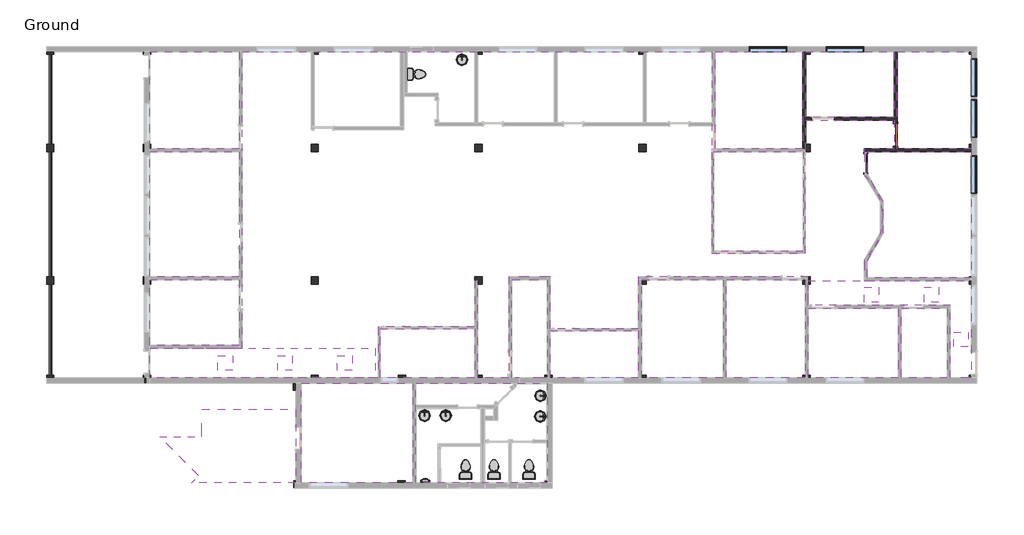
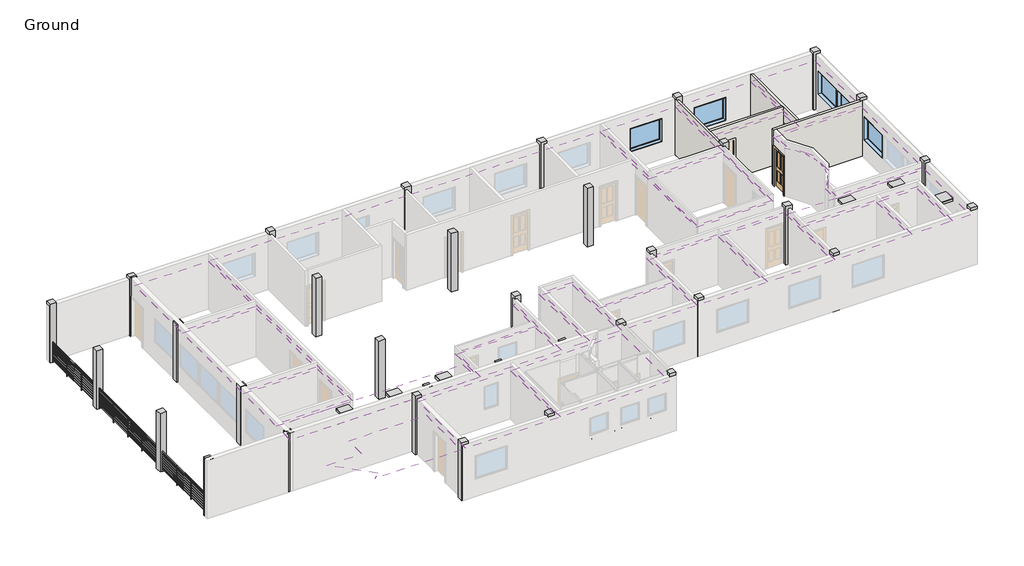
# One storey, part 4 of 4: 34 columns, 21 coverings, 10 flow terminals, 6 light fixtures, 5 windows, 4 walls, 3 railings, 2 doors.
"""IFC4 building model written with IfcOpenShell, lengths in millimetres."""

from ifc_helpers import new_model, si_unit, point, frame, frame_2d, origin, place, context, project, spatial, polyline, circle_curve, trimmed, segment, composite_curve, outline, extrude, faceted_brep, transform, mapped, element, save
from components import concrete_square_column_12_x_12_d780e21f, door_43f271b1, door_bfc1a142, m_toilet_domestic_3d_m_toilet_domestic_3d_5cb52bd4, m_toilet_domestic_3d_m_toilet_domestic_3d_183bbd19, flow_terminal_5184717d, urinal_wall_3d_urinal_wall_3d_aeedfa41, m_troffer_lens_0600_x_0600mm_2_lamp_a75f89fe, guardrail_pipe_4b02b070, guardrail_pipe_bb2e5a77, guardrail_pipe_0a43caf4, window_a0bf6c86

model = new_model("IFC4")

# Units and contexts
model_context = context("Model", 3, world=origin())
ifc_project = project(units=[si_unit("LENGTHUNIT", "METRE", prefix="MILLI")], contexts=[model_context])

# Site, building, storey
site = spatial("IfcSite", under=ifc_project)
building = spatial("IfcBuilding", under=site)
storey = spatial("IfcBuildingStorey", under=building, Name="Ground", Elevation=0.0)

# Columns
placement = place(None, origin())
concrete_square_column_12_x_12_shape = concrete_square_column_12_x_12_d780e21f(model_context)
element("IfcColumn", 1, ObjectType="Concrete-Square-Column : 12 x 12", at=placement, inside=storey, context=model_context, shape_type="MappedRepresentation", body=[
    mapped(concrete_square_column_12_x_12_shape, transform((-39928.402824, 22361.49779, 0.0), x_axis=(1.0, 0.0, 0.0), y_axis=(0.0, 1.0, 0.0), z_axis=(0.0, 0.0, 1.0))),
])
element("IfcColumn", 2, ObjectType="Concrete-Square-Column : 12 x 12", at=placement, inside=storey, context=model_context, shape_type="MappedRepresentation", body=[
    mapped(concrete_square_column_12_x_12_shape, transform((-33070.402824, 22361.49779, 0.0), x_axis=(1.0, 0.0, 0.0), y_axis=(0.0, 1.0, 0.0), z_axis=(0.0, 0.0, 1.0))),
])
element("IfcColumn", 3, ObjectType="Concrete-Square-Column : 12 x 12", at=placement, inside=storey, context=model_context, shape_type="MappedRepresentation", body=[
    mapped(concrete_square_column_12_x_12_shape, transform((-26364.802824, 22361.49779, 0.0), x_axis=(1.0, 0.0, 0.0), y_axis=(0.0, 1.0, 0.0), z_axis=(0.0, 0.0, 1.0))),
])
element("IfcColumn", 4, ObjectType="Concrete-Square-Column : 12 x 12", at=placement, inside=storey, context=model_context, shape_type="MappedRepresentation", body=[
    mapped(concrete_square_column_12_x_12_shape, transform((-19659.202824, 22361.49779, 0.0), x_axis=(1.0, 0.0, 0.0), y_axis=(0.0, 1.0, 0.0), z_axis=(0.0, 0.0, 1.0))),
])
element("IfcColumn", 5, ObjectType="Concrete-Square-Column : 12 x 12", at=placement, inside=storey, context=model_context, shape_type="MappedRepresentation", body=[
    mapped(concrete_square_column_12_x_12_shape, transform((-12953.602824, 22361.49779, 0.0), x_axis=(1.0, 0.0, 0.0), y_axis=(0.0, 1.0, 0.0), z_axis=(0.0, 0.0, 1.0))),
])
element("IfcColumn", 6, ObjectType="Concrete-Square-Column : 12 x 12", at=placement, inside=storey, context=model_context, shape_type="MappedRepresentation", body=[
    mapped(concrete_square_column_12_x_12_shape, transform((-6151.165324, 22361.49779, 0.0), x_axis=(1.0, 0.0, 0.0), y_axis=(0.0, 1.0, 0.0), z_axis=(0.0, 0.0, 1.0))),
])
element("IfcColumn", 7, ObjectType="Concrete-Square-Column : 12 x 12", at=placement, inside=storey, context=model_context, shape_type="MappedRepresentation", body=[
    mapped(concrete_square_column_12_x_12_shape, transform((-39928.402824, 18378.46029, 0.0), x_axis=(1.0, 0.0, 0.0), y_axis=(0.0, 1.0, 0.0), z_axis=(0.0, 0.0, 1.0))),
])
element("IfcColumn", 8, ObjectType="Concrete-Square-Column : 12 x 12", at=placement, inside=storey, context=model_context, shape_type="MappedRepresentation", body=[
    mapped(concrete_square_column_12_x_12_shape, transform((-39928.402824, 12965.08529, 0.0), x_axis=(1.0, 0.0, 0.0), y_axis=(0.0, 1.0, 0.0), z_axis=(0.0, 0.0, 1.0))),
])
element("IfcColumn", 9, ObjectType="Concrete-Square-Column : 12 x 12", at=placement, inside=storey, context=model_context, shape_type="MappedRepresentation", body=[
    mapped(concrete_square_column_12_x_12_shape, transform((-39928.402824, 8918.54779, 0.0), x_axis=(1.0, 0.0, 0.0), y_axis=(0.0, 1.0, 0.0), z_axis=(0.0, 0.0, 1.0))),
])
element("IfcColumn", 10, ObjectType="Concrete-Square-Column : 12 x 12", at=placement, inside=storey, context=model_context, shape_type="MappedRepresentation", body=[
    mapped(concrete_square_column_12_x_12_shape, transform((-33070.402824, 8918.54779, 0.0), x_axis=(1.0, 0.0, 0.0), y_axis=(0.0, 1.0, 0.0), z_axis=(0.0, 0.0, 1.0))),
])
element("IfcColumn", 11, ObjectType="Concrete-Square-Column : 12 x 12", at=placement, inside=storey, context=model_context, shape_type="MappedRepresentation", body=[
    mapped(concrete_square_column_12_x_12_shape, transform((-33070.402824, 12965.08529, 0.0), x_axis=(1.0, 0.0, 0.0), y_axis=(0.0, 1.0, 0.0), z_axis=(0.0, 0.0, 1.0))),
])
element("IfcColumn", 12, ObjectType="Concrete-Square-Column : 12 x 12", at=placement, inside=storey, context=model_context, shape_type="MappedRepresentation", body=[
    mapped(concrete_square_column_12_x_12_shape, transform((-26364.802824, 12965.08529, 0.0), x_axis=(1.0, 0.0, 0.0), y_axis=(0.0, 1.0, 0.0), z_axis=(0.0, 0.0, 1.0))),
])
element("IfcColumn", 13, ObjectType="Concrete-Square-Column : 12 x 12", at=placement, inside=storey, context=model_context, shape_type="MappedRepresentation", body=[
    mapped(concrete_square_column_12_x_12_shape, transform((-26364.802824, 8918.54779, 0.0), x_axis=(1.0, 0.0, 0.0), y_axis=(0.0, 1.0, 0.0), z_axis=(0.0, 0.0, 1.0))),
])
element("IfcColumn", 14, ObjectType="Concrete-Square-Column : 12 x 12", at=placement, inside=storey, context=model_context, shape_type="MappedRepresentation", body=[
    mapped(concrete_square_column_12_x_12_shape, transform((-19659.202824, 8918.54779, 0.0), x_axis=(1.0, 0.0, 0.0), y_axis=(0.0, 1.0, 0.0), z_axis=(0.0, 0.0, 1.0))),
])
element("IfcColumn", 15, ObjectType="Concrete-Square-Column : 12 x 12", at=placement, inside=storey, context=model_context, shape_type="MappedRepresentation", body=[
    mapped(concrete_square_column_12_x_12_shape, transform((-19659.202824, 12965.08529, 0.0), x_axis=(1.0, 0.0, 0.0), y_axis=(0.0, 1.0, 0.0), z_axis=(0.0, 0.0, 1.0))),
])
element("IfcColumn", 16, ObjectType="Concrete-Square-Column : 12 x 12", at=placement, inside=storey, context=model_context, shape_type="MappedRepresentation", body=[
    mapped(concrete_square_column_12_x_12_shape, transform((-12953.602824, 12965.08529, 0.0), x_axis=(1.0, 0.0, 0.0), y_axis=(0.0, 1.0, 0.0), z_axis=(0.0, 0.0, 1.0))),
])
element("IfcColumn", 17, ObjectType="Concrete-Square-Column : 12 x 12", at=placement, inside=storey, context=model_context, shape_type="MappedRepresentation", body=[
    mapped(concrete_square_column_12_x_12_shape, transform((-12953.602824, 8918.54779, 0.0), x_axis=(1.0, 0.0, 0.0), y_axis=(0.0, 1.0, 0.0), z_axis=(0.0, 0.0, 1.0))),
])
element("IfcColumn", 18, ObjectType="Concrete-Square-Column : 12 x 12", at=placement, inside=storey, context=model_context, shape_type="MappedRepresentation", body=[
    mapped(concrete_square_column_12_x_12_shape, transform((-6151.165324, 8918.54779, 0.0), x_axis=(1.0, 0.0, 0.0), y_axis=(0.0, 1.0, 0.0), z_axis=(0.0, 0.0, 1.0))),
])
element("IfcColumn", 19, ObjectType="Concrete-Square-Column : 12 x 12", at=placement, inside=storey, context=model_context, shape_type="MappedRepresentation", body=[
    mapped(concrete_square_column_12_x_12_shape, transform((-6151.165324, 12965.08529, 0.0), x_axis=(1.0, 0.0, 0.0), y_axis=(0.0, 1.0, 0.0), z_axis=(0.0, 0.0, 1.0))),
])
element("IfcColumn", 20, ObjectType="Concrete-Square-Column : 12 x 12", at=placement, inside=storey, context=model_context, shape_type="MappedRepresentation", body=[
    mapped(concrete_square_column_12_x_12_shape, transform((-6151.165324, 18378.46029, 0.0), x_axis=(1.0, 0.0, 0.0), y_axis=(0.0, 1.0, 0.0), z_axis=(0.0, 0.0, 1.0))),
])
element("IfcColumn", 21, ObjectType="Concrete-Square-Column : 12 x 12", at=placement, inside=storey, context=model_context, shape_type="MappedRepresentation", body=[
    mapped(concrete_square_column_12_x_12_shape, transform((-12953.602824, 18378.46029, 0.0), x_axis=(1.0, 0.0, 0.0), y_axis=(0.0, 1.0, 0.0), z_axis=(0.0, 0.0, 1.0))),
])
element("IfcColumn", 22, ObjectType="Concrete-Square-Column : 12 x 12", at=placement, inside=storey, context=model_context, shape_type="MappedRepresentation", body=[
    mapped(concrete_square_column_12_x_12_shape, transform((-19659.202824, 18378.46029, 0.0), x_axis=(1.0, 0.0, 0.0), y_axis=(0.0, 1.0, 0.0), z_axis=(0.0, 0.0, 1.0))),
])
element("IfcColumn", 23, ObjectType="Concrete-Square-Column : 12 x 12", at=placement, inside=storey, context=model_context, shape_type="MappedRepresentation", body=[
    mapped(concrete_square_column_12_x_12_shape, transform((-26364.802824, 18378.46029, 0.0), x_axis=(1.0, 0.0, 0.0), y_axis=(0.0, 1.0, 0.0), z_axis=(0.0, 0.0, 1.0))),
])
element("IfcColumn", 24, ObjectType="Concrete-Square-Column : 12 x 12", at=placement, inside=storey, context=model_context, shape_type="MappedRepresentation", body=[
    mapped(concrete_square_column_12_x_12_shape, transform((-33070.402824, 18378.46029, 0.0), x_axis=(1.0, 0.0, 0.0), y_axis=(0.0, 1.0, 0.0), z_axis=(0.0, 0.0, 1.0))),
])
element("IfcColumn", 25, ObjectType="Concrete-Square-Column : 12 x 12", at=placement, inside=storey, context=model_context, shape_type="MappedRepresentation", body=[
    mapped(concrete_square_column_12_x_12_shape, transform((-43890.802824, 8918.54779, 0.0), x_axis=(1.0, 0.0, 0.0), y_axis=(0.0, 1.0, 0.0), z_axis=(0.0, 0.0, 1.0))),
])
element("IfcColumn", 26, ObjectType="Concrete-Square-Column : 12 x 12", at=placement, inside=storey, context=model_context, shape_type="MappedRepresentation", body=[
    mapped(concrete_square_column_12_x_12_shape, transform((-43890.802824, 12965.08529, 0.0), x_axis=(1.0, 0.0, 0.0), y_axis=(0.0, 1.0, 0.0), z_axis=(0.0, 0.0, 1.0))),
])
element("IfcColumn", 27, ObjectType="Concrete-Square-Column : 12 x 12", at=placement, inside=storey, context=model_context, shape_type="MappedRepresentation", body=[
    mapped(concrete_square_column_12_x_12_shape, transform((-43890.802824, 18378.46029, 0.0), x_axis=(1.0, 0.0, 0.0), y_axis=(0.0, 1.0, 0.0), z_axis=(0.0, 0.0, 1.0))),
])
element("IfcColumn", 28, ObjectType="Concrete-Square-Column : 12 x 12", at=placement, inside=storey, context=model_context, shape_type="MappedRepresentation", body=[
    mapped(concrete_square_column_12_x_12_shape, transform((-43890.802824, 22361.49779, 0.0), x_axis=(1.0, 0.0, 0.0), y_axis=(0.0, 1.0, 0.0), z_axis=(0.0, 0.0, 1.0))),
])
element("IfcColumn", 29, ObjectType="Concrete-Square-Column : 12 x 12", at=placement, inside=storey, context=model_context, shape_type="MappedRepresentation", body=[
    mapped(concrete_square_column_12_x_12_shape, transform((-23512.065324, 8918.54779, 0.0), x_axis=(1.0, 0.0, 0.0), y_axis=(0.0, 1.0, 0.0), z_axis=(0.0, 0.0, 1.0))),
])
element("IfcColumn", 30, ObjectType="Concrete-Square-Column : 12 x 12", at=placement, inside=storey, context=model_context, shape_type="MappedRepresentation", body=[
    mapped(concrete_square_column_12_x_12_shape, transform((-23512.065324, 4621.18529, 0.0), x_axis=(1.0, 0.0, 0.0), y_axis=(0.0, 1.0, 0.0), z_axis=(0.0, 0.0, 1.0))),
])
element("IfcColumn", 31, ObjectType="Concrete-Square-Column : 12 x 12", at=placement, inside=storey, context=model_context, shape_type="MappedRepresentation", body=[
    mapped(concrete_square_column_12_x_12_shape, transform((-29508.052824, 8918.54779, 0.0), x_axis=(1.0, 0.0, 0.0), y_axis=(0.0, 1.0, 0.0), z_axis=(0.0, 0.0, 1.0))),
])
element("IfcColumn", 32, ObjectType="Concrete-Square-Column : 12 x 12", at=placement, inside=storey, context=model_context, shape_type="MappedRepresentation", body=[
    mapped(concrete_square_column_12_x_12_shape, transform((-33791.127824, 8613.74779, 0.0), x_axis=(1.0, 0.0, 0.0), y_axis=(0.0, 1.0, 0.0), z_axis=(0.0, 0.0, 1.0))),
])
element("IfcColumn", 33, ObjectType="Concrete-Square-Column : 12 x 12", at=placement, inside=storey, context=model_context, shape_type="MappedRepresentation", body=[
    mapped(concrete_square_column_12_x_12_shape, transform((-29516.8878988, 4621.18529, 0.0), x_axis=(1.0, 0.0, 0.0), y_axis=(0.0, 1.0, 0.0), z_axis=(0.0, 0.0, 1.0))),
])
element("IfcColumn", 34, ObjectType="Concrete-Square-Column : 12 x 12", at=placement, inside=storey, context=model_context, shape_type="MappedRepresentation", body=[
    mapped(concrete_square_column_12_x_12_shape, transform((-33784.0878988, 4621.18529, 0.0), x_axis=(1.0, 0.0, 0.0), y_axis=(0.0, 1.0, 0.0), z_axis=(0.0, 0.0, 1.0))),
])

# Coverings
element("IfcCovering", 35, ObjectType="2' x 4' ACT System", at=placement, inside=storey, context=model_context, shape_type="SweptSolid", body=[
    extrude(outline(polyline([(-39818.865324, 18349.88529), (-39818.865324, 22307.52279), (-36166.027824, 22307.52279), (-36166.027824, 18349.88529), (-39818.865324, 18349.88529)])), frame((0.0, 0.0, 2514.6), z_axis=(0.0, 0.0, 1.0), x_axis=(1.0, 0.0, 0.0)), (0.0, 0.0, 1.0), 57.15),
])
element("IfcCovering", 36, ObjectType="2' x 4' ACT System", at=placement, inside=storey, context=model_context, shape_type="SweptSolid", body=[
    extrude(outline(polyline([(-36166.027824, 13117.48529), (-39818.865324, 13117.48529), (-39818.865324, 18226.06029), (-36166.027824, 18226.06029), (-36166.027824, 13117.48529)])), frame((0.0, 0.0, 2514.6), z_axis=(0.0, 0.0, 1.0), x_axis=(1.0, 0.0, 0.0)), (0.0, 0.0, 1.0), 57.15),
])
element("IfcCovering", 37, ObjectType="2' x 4' ACT System", at=placement, inside=storey, context=model_context, shape_type="SweptSolid", body=[
    extrude(outline(polyline([(-36166.027824, 10304.9644567), (-39818.865324, 10304.9644567), (-39818.865324, 12993.66029), (-36166.027824, 12993.66029), (-36166.027824, 10304.9644567)])), frame((0.0, 0.0, 2514.6), z_axis=(0.0, 0.0, 1.0), x_axis=(1.0, 0.0, 0.0)), (0.0, 0.0, 1.0), 57.15),
])
element("IfcCovering", 38, ObjectType="2' x 4' ACT System", at=placement, inside=storey, context=model_context, shape_type="SweptSolid", body=[
    extrude(outline(polyline([(-16688.990324, 22307.52279), (-13106.002824, 22307.52279), (-13106.002824, 18343.53529), (-16688.990324, 18343.53529), (-16688.990324, 22307.52279)])), frame((0.0, 0.0, 2514.6), z_axis=(0.0, 0.0, 1.0), x_axis=(1.0, 0.0, 0.0)), (0.0, 0.0, 1.0), 57.15),
])
element("IfcCovering", 39, ObjectType="2' x 4' ACT System", at=placement, inside=storey, context=model_context, shape_type="SweptSolid", body=[
    extrude(outline(polyline([(-12982.177824, 22307.52279), (-9372.202824, 22307.52279), (-9372.202824, 19632.58529), (-12982.177824, 19632.58529), (-12982.177824, 22307.52279)])), frame((0.0, 0.0, 2514.6), z_axis=(0.0, 0.0, 1.0), x_axis=(1.0, 0.0, 0.0)), (0.0, 0.0, 1.0), 57.15),
])
element("IfcCovering", 40, ObjectType="2' x 4' ACT System", at=placement, inside=storey, context=model_context, shape_type="SweptSolid", body=[
    extrude(outline(polyline([(-9248.377824, 22307.52279), (-6205.140324, 22307.52279), (-6205.140324, 18343.53529), (-9248.377824, 18343.53529), (-9248.377824, 22307.52279)])), frame((0.0, 0.0, 2514.6), z_axis=(0.0, 0.0, 1.0), x_axis=(1.0, 0.0, 0.0)), (0.0, 0.0, 1.0), 57.15),
])
element("IfcCovering", 41, ObjectType="2' x 4' ACT System", at=placement, inside=storey, context=model_context, shape_type="SweptSolid", body=[
    extrude(outline(composite_curve([segment(polyline([(-10467.577824, 18219.71029), (-6205.140324, 18219.71029), (-6205.140324, 13073.03529), (-10467.577824, 13073.03529), (-10467.577824, 13753.2813276)]), True, "CONTINUOUS"), segment(trimmed(circle_curve(frame_2d((-12218.244142, 15538.42279)), 2500.3125), [point((-10467.577824, 13753.2813276))], [point((-10467.577824, 17323.5642525))], True, "CARTESIAN"), True, "CONTINUOUS"), segment(polyline([(-10467.577824, 17323.5642525), (-10467.577824, 18219.71029)]), True, "CONTINUOUS")], self_intersect=False)), frame((0.0, 0.0, 2514.6), z_axis=(0.0, 0.0, 1.0), x_axis=(1.0, 0.0, 0.0)), (0.0, 0.0, 1.0), 57.15),
])
element("IfcCovering", 42, ObjectType="2' x 4' ACT System", at=placement, inside=storey, context=model_context, shape_type="SweptSolid", body=[
    extrude(outline(polyline([(-16741.377824, 14150.94779), (-16741.377824, 18219.71029), (-13083.777824, 18219.71029), (-13083.777824, 14150.94779), (-16741.377824, 14150.94779)])), frame((0.0, 0.0, 2514.6), z_axis=(0.0, 0.0, 1.0), x_axis=(1.0, 0.0, 0.0)), (0.0, 0.0, 1.0), 57.15),
])
element("IfcCovering", 43, ObjectType="2' x 4' ACT System", at=placement, inside=storey, context=model_context, shape_type="SweptSolid", body=[
    extrude(outline(polyline([(-16231.790324, 12993.66029), (-13015.515324, 12993.66029), (-13015.515324, 8972.52279), (-16231.790324, 8972.52279), (-16231.790324, 12993.66029)])), frame((0.0, 0.0, 2514.6), z_axis=(0.0, 0.0, 1.0), x_axis=(1.0, 0.0, 0.0)), (0.0, 0.0, 1.0), 57.15),
])
element("IfcCovering", 44, ObjectType="2' x 4' ACT System", at=placement, inside=storey, context=model_context, shape_type="SweptSolid", body=[
    extrude(outline(polyline([(-19703.652824, 12993.66029), (-16355.615324, 12993.66029), (-16355.615324, 8972.52279), (-19703.652824, 8972.52279), (-19703.652824, 12993.66029)])), frame((0.0, 0.0, 2514.6), z_axis=(0.0, 0.0, 1.0), x_axis=(1.0, 0.0, 0.0)), (0.0, 0.0, 1.0), 57.15),
])
element("IfcCovering", 45, ObjectType="2' x 4' ACT System", at=placement, inside=storey, context=model_context, shape_type="SweptSolid", body=[
    extrude(outline(polyline([(-9207.102824, 8972.52279), (-12891.690324, 8972.52279), (-12891.690324, 11818.91029), (-9207.102824, 11818.91029), (-9207.102824, 8972.52279)])), frame((0.0, 0.0, 2514.6), z_axis=(0.0, 0.0, 1.0), x_axis=(1.0, 0.0, 0.0)), (0.0, 0.0, 1.0), 57.15),
])
element("IfcCovering", 46, ObjectType="2' x 4' ACT System", at=placement, inside=storey, context=model_context, shape_type="SweptSolid", body=[
    extrude(outline(polyline([(-7195.740324, 8972.52279), (-9083.277824, 8972.52279), (-9083.277824, 11818.91029), (-7195.740324, 11818.91029), (-7195.740324, 8972.52279)])), frame((0.0, 0.0, 2514.6), z_axis=(0.0, 0.0, 1.0), x_axis=(1.0, 0.0, 0.0)), (0.0, 0.0, 1.0), 57.15),
])
element("IfcCovering", 47, ObjectType="2' x 4' ACT System", at=placement, inside=storey, context=model_context, shape_type="SweptSolid", body=[
    extrude(outline(polyline([(-23432.690324, 10894.98529), (-19827.477824, 10894.98529), (-19827.477824, 8972.52279), (-23432.690324, 8972.52279), (-23432.690324, 10894.98529)])), frame((0.0, 0.0, 2514.6), z_axis=(0.0, 0.0, 1.0), x_axis=(1.0, 0.0, 0.0)), (0.0, 0.0, 1.0), 57.15),
])
element("IfcCovering", 48, ObjectType="2' x 4' ACT System", at=placement, inside=storey, context=model_context, shape_type="SweptSolid", body=[
    extrude(outline(polyline([(-25020.190324, 12993.66029), (-23556.515324, 12993.66029), (-23556.515324, 8972.52279), (-24701.102824, 8972.52279), (-25020.190324, 8972.52279), (-25020.190324, 12993.66029)])), frame((0.0, 0.0, 2514.6), z_axis=(0.0, 0.0, 1.0), x_axis=(1.0, 0.0, 0.0)), (0.0, 0.0, 1.0), 57.15),
])
element("IfcCovering", 49, ObjectType="2' x 4' ACT System", at=placement, inside=storey, context=model_context, shape_type="SweptSolid", body=[
    extrude(outline(polyline([(-30397.052824, 10987.06029), (-26533.077824, 10987.06029), (-26533.077824, 8972.52279), (-30397.052824, 8972.52279), (-30397.052824, 10987.06029)])), frame((0.0, 0.0, 2514.6), z_axis=(0.0, 0.0, 1.0), x_axis=(1.0, 0.0, 0.0)), (0.0, 0.0, 1.0), 57.15),
])
element("IfcCovering", 50, ObjectType="2' x 4' ACT System", at=placement, inside=storey, context=model_context, shape_type="SweptSolid", body=[
    extrude(outline(polyline([(-29065.140324, 8753.44779), (-29065.140324, 4675.16029), (-33632.377824, 4675.16029), (-33632.377824, 8753.44779), (-29065.140324, 8753.44779)])), frame((0.0, 0.0, 2514.6), z_axis=(0.0, 0.0, 1.0), x_axis=(1.0, 0.0, 0.0)), (0.0, 0.0, 1.0), 57.15),
])
element("IfcCovering", 51, ObjectType="2' x 4' ACT System", at=placement, inside=storey, context=model_context, shape_type="SweptSolid", body=[
    extrude(outline(polyline([(-33853.040324, 7686.64779), (-33853.040324, 4675.16029), (-38096.1227235, 4675.16029), (-37812.8000173, 4958.4829962), (-39418.5074722, 6564.1904511), (-37685.265324, 6564.1904511), (-37685.265324, 7686.64779), (-33853.040324, 7686.64779)])), frame((0.0, 0.0, 2514.6), z_axis=(0.0, 0.0, 1.0), x_axis=(1.0, 0.0, 0.0)), (0.0, 0.0, 1.0), 57.15),
])
element("IfcCovering", 52, ObjectType="2' x 4' ACT System", at=placement, inside=storey, context=model_context, shape_type="SweptSolid", body=[
    extrude(outline(polyline([(-12891.690324, 12949.21029), (-6205.140324, 12949.21029), (-6205.140324, 8972.52279), (-7071.915324, 8972.52279), (-7071.915324, 11942.73529), (-12891.690324, 11942.73529), (-12891.690324, 12949.21029)]), holes=[polyline([(-9992.2426179, 12673.77904), (-10592.2426179, 12673.77904), (-10592.2426179, 12073.77904), (-9992.2426179, 12073.77904), (-9992.2426179, 12673.77904)]), polyline([(-7544.2426179, 12673.77904), (-8144.2426179, 12673.77904), (-8144.2426179, 12073.77904), (-7544.2426179, 12073.77904), (-7544.2426179, 12673.77904)]), polyline([(-6334.6426179, 10844.97904), (-6934.6426179, 10844.97904), (-6934.6426179, 10244.97904), (-6334.6426179, 10244.97904), (-6334.6426179, 10844.97904)])]), frame((0.0, 0.0, 2514.6), z_axis=(0.0, 0.0, 1.0), x_axis=(1.0, 0.0, 0.0)), (0.0, 0.0, 1.0), 57.15),
])
element("IfcCovering", 53, ObjectType="2' x 4' ACT System", at=placement, inside=storey, context=model_context, shape_type="SweptSolid", body=[
    extrude(outline(polyline([(-30589.140324, 10181.1394567), (-30589.140324, 8972.52279), (-39818.865324, 8972.52279), (-39818.865324, 10181.1394567), (-30589.140324, 10181.1394567)]), holes=[polyline([(-33981.627824, 9877.32279), (-34581.627824, 9877.32279), (-34581.627824, 9277.32279), (-33981.627824, 9277.32279), (-33981.627824, 9877.32279)]), polyline([(-31543.227824, 9877.32279), (-32143.227824, 9877.32279), (-32143.227824, 9277.32279), (-31543.227824, 9277.32279), (-31543.227824, 9877.32279)]), polyline([(-36432.802824, 9881.5561234), (-37032.802824, 9881.5561234), (-37032.802824, 9281.5561234), (-36432.802824, 9281.5561234), (-36432.802824, 9881.5561234)])]), frame((0.0, 0.0, 2514.6), z_axis=(0.0, 0.0, 1.0), x_axis=(1.0, 0.0, 0.0)), (0.0, 0.0, 1.0), 57.15),
])
element("IfcCovering", 54, ObjectType="2' x 4' ACT System", at=placement, inside=storey, context=model_context, shape_type="SweptSolid", body=[
    extrude(outline(polyline([(-23566.040324, 8753.44779), (-23566.040324, 4675.16029), (-28941.315324, 4675.16029), (-28941.315324, 8753.44779), (-23566.040324, 8753.44779)])), frame((0.0, 0.0, 2514.6), z_axis=(0.0, 0.0, 1.0), x_axis=(1.0, 0.0, 0.0)), (0.0, 0.0, 1.0), 57.15),
])
element("IfcCovering", 55, ObjectType="2' x 4' ACT System", at=placement, inside=storey, context=model_context, shape_type="SweptSolid", body=[
    extrude(outline(composite_curve([segment(polyline([(-30476.427824, 8972.52279), (-39818.865324, 8972.52279), (-39818.865324, 10181.1394567), (-36042.202824, 10181.1394567), (-36042.202824, 22307.52279), (-16820.752824, 22307.52279), (-16820.752824, 14071.57279), (-13004.402824, 14071.57279), (-13004.402824, 18281.62279), (-12982.177824, 18281.62279), (-12982.177824, 19508.76029), (-9372.202824, 19508.76029), (-9372.202824, 18343.53529), (-10591.402824, 18343.53529), (-10591.402824, 17270.785386)]), True, "CONTINUOUS"), segment(trimmed(circle_curve(frame_2d((-12218.244142, 15538.42279)), 2376.4875), [point((-10591.402824, 17270.785386))], [point((-10591.402824, 13806.060194))], False, "CARTESIAN"), True, "CONTINUOUS"), segment(polyline([(-10591.402824, 13806.060194), (-10591.402824, 12949.21029), (-6205.140324, 12949.21029), (-6205.140324, 8972.52279), (-7071.915324, 8972.52279), (-7071.915324, 11942.73529), (-12891.690324, 11942.73529), (-12891.690324, 13117.48529), (-19827.477824, 13117.48529), (-19827.477824, 10974.36029), (-23432.690324, 10974.36029), (-23432.690324, 13117.48529), (-25144.015324, 13117.48529), (-25144.015324, 8972.52279), (-26409.252824, 8972.52279), (-26409.252824, 12947.62279), (-26533.077824, 12947.62279), (-26533.077824, 11066.43529), (-30476.427824, 11066.43529), (-30476.427824, 8972.52279)]), True, "CONTINUOUS")], self_intersect=False)), frame((0.0, 0.0, 2514.6), z_axis=(0.0, 0.0, 1.0), x_axis=(1.0, 0.0, 0.0)), (0.0, 0.0, 1.0), 57.15),
])

# Doors
door_shape = door_43f271b1(model_context)
element("IfcDoor", 56, ObjectType="Single-Flush : 36\" x 80\" - D1", at=placement, inside=storey, context=model_context, shape_type="MappedRepresentation", body=[
    mapped(door_shape, transform((-9310.290324, 18910.27279, 0.0), x_axis=(0.0, -1.0, 0.0), y_axis=(1.0, 0.0, 0.0), z_axis=(0.0, 0.0, 1.0))),
])
door_2_shape = door_bfc1a142(model_context)
element("IfcDoor", 57, ObjectType="Single-Glass 3 : 30\" x 80\" - D3", at=placement, inside=storey, context=model_context, shape_type="MappedRepresentation", body=[
    mapped(door_2_shape, transform((-10529.490324, 17754.57279, 0.0), x_axis=(0.0, 1.0, 0.0), y_axis=(-1.0, 0.0, 0.0), z_axis=(0.0, 0.0, 1.0))),
])

# Flow terminals
m_toilet_domestic_3d_m_toilet_domestic_3d_shape = m_toilet_domestic_3d_m_toilet_domestic_3d_5cb52bd4(model_context)
m_toilet_domestic_3d_m_toilet_domestic_3d_2_shape = m_toilet_domestic_3d_m_toilet_domestic_3d_183bbd19(model_context)
element("IfcFlowTerminal", 58, ObjectType="M_Toilet-Domestic-3D : M_Toilet-Domestic-3D", at=placement, inside=storey, context=model_context, shape_type="MappedRepresentation", body=[
    mapped(m_toilet_domestic_3d_m_toilet_domestic_3d_shape, transform((-28830.190324, 21393.12279, 0.0), x_axis=(0.0, 1.0, 0.0), y_axis=(-1.0, 0.0, 0.0), z_axis=(0.0, 0.0, 1.0))),
    mapped(m_toilet_domestic_3d_m_toilet_domestic_3d_2_shape, transform((-28830.190324, 21393.12279, 0.0), x_axis=(0.0, 1.0, 0.0), y_axis=(-1.0, 0.0, 0.0), z_axis=(0.0, 0.0, 1.0))),
])
element("IfcFlowTerminal", 59, ObjectType="M_Toilet-Domestic-3D : M_Toilet-Domestic-3D", at=placement, inside=storey, context=model_context, shape_type="MappedRepresentation", body=[
    mapped(m_toilet_domestic_3d_m_toilet_domestic_3d_shape, transform((-26898.202824, 5322.2563174, 0.0), x_axis=(-1.0, 0.0, 0.0), y_axis=(0.0, -1.0, 0.0), z_axis=(0.0, 0.0, 1.0))),
    mapped(m_toilet_domestic_3d_m_toilet_domestic_3d_2_shape, transform((-26898.202824, 5322.2563174, 0.0), x_axis=(-1.0, 0.0, 0.0), y_axis=(0.0, -1.0, 0.0), z_axis=(0.0, 0.0, 1.0))),
])
element("IfcFlowTerminal", 60, ObjectType="M_Toilet-Domestic-3D : M_Toilet-Domestic-3D", at=placement, inside=storey, context=model_context, shape_type="MappedRepresentation", body=[
    mapped(m_toilet_domestic_3d_m_toilet_domestic_3d_shape, transform((-25738.8560212, 5322.2563174, 0.0), x_axis=(-1.0, 0.0, 0.0), y_axis=(0.0, -1.0, 0.0), z_axis=(0.0, 0.0, 1.0))),
    mapped(m_toilet_domestic_3d_m_toilet_domestic_3d_2_shape, transform((-25738.8560212, 5322.2563174, 0.0), x_axis=(-1.0, 0.0, 0.0), y_axis=(0.0, -1.0, 0.0), z_axis=(0.0, 0.0, 1.0))),
])
element("IfcFlowTerminal", 61, ObjectType="M_Toilet-Domestic-3D : M_Toilet-Domestic-3D", at=placement, inside=storey, context=model_context, shape_type="MappedRepresentation", body=[
    mapped(m_toilet_domestic_3d_m_toilet_domestic_3d_shape, transform((-24305.021574, 5322.2563174, 0.0), x_axis=(-1.0, 0.0, 0.0), y_axis=(0.0, -1.0, 0.0), z_axis=(0.0, 0.0, 1.0))),
    mapped(m_toilet_domestic_3d_m_toilet_domestic_3d_2_shape, transform((-24305.021574, 5322.2563174, 0.0), x_axis=(-1.0, 0.0, 0.0), y_axis=(0.0, -1.0, 0.0), z_axis=(0.0, 0.0, 1.0))),
])
flow_terminal_shape = flow_terminal_5184717d(model_context)
element("IfcFlowTerminal", 62, ObjectType="Sink Vanity-Round : 19\" x 19\"", at=placement, inside=storey, context=model_context, shape_type="MappedRepresentation", body=[
    mapped(flow_terminal_shape, transform((-27147.2545646, 21903.5734981, 0.0), x_axis=(1.0, 0.0, 0.0), y_axis=(0.0, 1.0, 0.0), z_axis=(0.0, 0.0, 1.0))),
])
element("IfcFlowTerminal", 63, ObjectType="Sink Vanity-Round : 19\" x 19\"", at=placement, inside=storey, context=model_context, shape_type="MappedRepresentation", body=[
    mapped(flow_terminal_shape, transform((-23923.4157251, 8334.9557806, 0.0), x_axis=(0.0, -1.0, 0.0), y_axis=(1.0, 0.0, 0.0), z_axis=(0.0, 0.0, 1.0))),
])
element("IfcFlowTerminal", 64, ObjectType="Sink Vanity-Round : 19\" x 19\"", at=placement, inside=storey, context=model_context, shape_type="MappedRepresentation", body=[
    mapped(flow_terminal_shape, transform((-23929.1800826, 7491.1995306, 0.0), x_axis=(0.0, -1.0, 0.0), y_axis=(1.0, 0.0, 0.0), z_axis=(0.0, 0.0, 1.0))),
])
element("IfcFlowTerminal", 65, ObjectType="Sink Vanity-Round : 19\" x 19\"", at=placement, inside=storey, context=model_context, shape_type="MappedRepresentation", body=[
    mapped(flow_terminal_shape, transform((-27810.8295646, 7341.7828967, 0.0), x_axis=(1.0, 0.0, 0.0), y_axis=(0.0, 1.0, 0.0), z_axis=(0.0, 0.0, 1.0))),
])
element("IfcFlowTerminal", 66, ObjectType="Sink Vanity-Round : 19\" x 19\"", at=placement, inside=storey, context=model_context, shape_type="MappedRepresentation", body=[
    mapped(flow_terminal_shape, transform((-28674.4295646, 7341.7828967, 0.0), x_axis=(1.0, 0.0, 0.0), y_axis=(0.0, 1.0, 0.0), z_axis=(0.0, 0.0, 1.0))),
])
urinal_wall_3d_urinal_wall_3d_shape = urinal_wall_3d_urinal_wall_3d_aeedfa41(model_context)
element("IfcFlowTerminal", 67, ObjectType="Urinal-Wall-3D : Urinal-Wall-3D", at=placement, inside=storey, context=model_context, shape_type="MappedRepresentation", body=[
    mapped(urinal_wall_3d_urinal_wall_3d_shape, transform((-28443.3032242, 4565.62279, 0.0), x_axis=(1.0, 0.0, 0.0), y_axis=(0.0, 1.0, 0.0), z_axis=(0.0, 0.0, 1.0))),
])

# Light fixtures
m_troffer_lens_0600_x_0600mm_2_lamp_shape = m_troffer_lens_0600_x_0600mm_2_lamp_a75f89fe(model_context)
element("IfcLightFixture", 68, ObjectType="M_Troffer - Lens : 0600 x 0600mm (2 Lamp)", at=placement, inside=storey, context=model_context, shape_type="MappedRepresentation", body=[
    mapped(m_troffer_lens_0600_x_0600mm_2_lamp_shape, transform((-34262.9243225, 9636.7887221, 76.2), x_axis=(1.0, 0.0, 0.0), y_axis=(0.0, 1.0, 0.0), z_axis=(0.0, 0.0, 1.0))),
])
element("IfcLightFixture", 69, ObjectType="M_Troffer - Lens : 0600 x 0600mm (2 Lamp)", at=placement, inside=storey, context=model_context, shape_type="MappedRepresentation", body=[
    mapped(m_troffer_lens_0600_x_0600mm_2_lamp_shape, transform((-31824.5243225, 9636.7887221, 76.2), x_axis=(1.0, 0.0, 0.0), y_axis=(0.0, 1.0, 0.0), z_axis=(0.0, 0.0, 1.0))),
])
element("IfcLightFixture", 70, ObjectType="M_Troffer - Lens : 0600 x 0600mm (2 Lamp)", at=placement, inside=storey, context=model_context, shape_type="MappedRepresentation", body=[
    mapped(m_troffer_lens_0600_x_0600mm_2_lamp_shape, transform((-36714.0993225, 9641.0220555, 76.2), x_axis=(1.0, 0.0, 0.0), y_axis=(0.0, 1.0, 0.0), z_axis=(0.0, 0.0, 1.0))),
])
element("IfcLightFixture", 71, ObjectType="M_Troffer - Lens : 0600 x 0600mm (2 Lamp)", at=placement, inside=storey, context=model_context, shape_type="MappedRepresentation", body=[
    mapped(m_troffer_lens_0600_x_0600mm_2_lamp_shape, transform((-10273.5391163, 12433.2449721, 76.2), x_axis=(1.0, 0.0, 0.0), y_axis=(0.0, 1.0, 0.0), z_axis=(0.0, 0.0, 1.0))),
])
element("IfcLightFixture", 72, ObjectType="M_Troffer - Lens : 0600 x 0600mm (2 Lamp)", at=placement, inside=storey, context=model_context, shape_type="MappedRepresentation", body=[
    mapped(m_troffer_lens_0600_x_0600mm_2_lamp_shape, transform((-7825.5391163, 12433.2449721, 76.2), x_axis=(1.0, 0.0, 0.0), y_axis=(0.0, 1.0, 0.0), z_axis=(0.0, 0.0, 1.0))),
])
element("IfcLightFixture", 73, ObjectType="M_Troffer - Lens : 0600 x 0600mm (2 Lamp)", at=placement, inside=storey, context=model_context, shape_type="MappedRepresentation", body=[
    mapped(m_troffer_lens_0600_x_0600mm_2_lamp_shape, transform((-6615.9391163, 10604.4449721, 76.2), x_axis=(1.0, 0.0, 0.0), y_axis=(0.0, 1.0, 0.0), z_axis=(0.0, 0.0, 1.0))),
])

# Railings
guardrail_pipe_shape = guardrail_pipe_4b02b070(model_context)
element("IfcRailing", 74, ObjectType="Guardrail - Pipe", at=placement, inside=storey, context=model_context, shape_type="MappedRepresentation", body=[
    mapped(guardrail_pipe_shape, transform((0.0, 0.0, 0.0), x_axis=(1.0, 0.0, 0.0), y_axis=(0.0, 1.0, 0.0), z_axis=(0.0, 0.0, 1.0))),
])
guardrail_pipe_2_shape = guardrail_pipe_bb2e5a77(model_context)
element("IfcRailing", 75, ObjectType="Guardrail - Pipe", at=placement, inside=storey, context=model_context, shape_type="MappedRepresentation", body=[
    mapped(guardrail_pipe_2_shape, transform((0.0, 0.0, 0.0), x_axis=(1.0, 0.0, 0.0), y_axis=(0.0, 1.0, 0.0), z_axis=(0.0, 0.0, 1.0))),
])
guardrail_pipe_3_shape = guardrail_pipe_0a43caf4(model_context)
element("IfcRailing", 76, ObjectType="Guardrail - Pipe", at=placement, inside=storey, context=model_context, shape_type="MappedRepresentation", body=[
    mapped(guardrail_pipe_3_shape, transform((0.0, 0.0, 0.0), x_axis=(1.0, 0.0, 0.0), y_axis=(0.0, 1.0, 0.0), z_axis=(0.0, 0.0, 1.0))),
])

# Walls
element("IfcWall", 77, ObjectType="Interior - 5 1/2\" Partition (1-hr)", at=placement, inside=storey, context=model_context, shape_type="Brep", body=[
    faceted_brep([(-6205.140324, 18343.53529, 0.0), (-9248.377824, 18343.53529, 0.0), (-9372.202824, 18343.53529, 0.0), (-10591.402824, 18343.53529, 0.0), (-10591.402824, 18343.53529, 2895.6), (-9372.202824, 18343.53529, 2895.6), (-9248.377824, 18343.53529, 2895.6), (-6205.140324, 18343.53529, 2895.6), (-6205.140324, 18219.71029, 0.0), (-6205.140324, 18219.71029, 2895.6), (-10467.577824, 18219.71029, 2895.6), (-10591.402824, 18219.71029, 2895.6), (-10591.402824, 18219.71029, 0.0), (-10467.577824, 18219.71029, 0.0)], [[[0, 1, 2, 3, 4, 5, 6, 7]], [[8, 9, 10, 11, 12, 13]], [[3, 2, 1, 0, 8, 13, 12]], [[7, 6, 5, 4, 11, 10, 9]], [[4, 3, 12, 11]], [[0, 7, 9, 8]]]),
])
element("IfcWall", 78, ObjectType="Interior - 5 1/2\" Partition (1-hr)", at=placement, inside=storey, context=model_context, shape_type="Brep", body=[
    faceted_brep([(-9372.202824, 18343.53529, 0.0), (-9372.202824, 18453.07279, 0.0), (-9248.377824, 18453.07279, 0.0), (-9248.377824, 18343.53529, 0.0), (-9372.202824, 19367.47279, 0.0), (-9372.202824, 19508.76029, 0.0), (-9372.202824, 19632.58529, 0.0), (-9372.202824, 22307.52279, 0.0), (-9248.377824, 22307.52279, 0.0), (-9248.377824, 19367.47279, 0.0), (-9248.377824, 18343.53529, 2895.6), (-9248.377824, 22307.52279, 2895.6), (-9372.202824, 22307.52279, 2895.6), (-9372.202824, 19632.58529, 2895.6), (-9372.202824, 19508.76029, 2895.6), (-9372.202824, 18343.53529, 2895.6), (-9248.377824, 18453.07279, 2032.0), (-9248.377824, 19367.47279, 2032.0), (-9372.202824, 18453.07279, 2032.0), (-9372.202824, 19367.47279, 2032.0)], [[[0, 1, 2, 3]], [[4, 5, 6, 7, 8, 9]], [[10, 11, 12, 13, 14, 15]], [[3, 2, 16, 17, 9, 8, 11, 10]], [[18, 1, 0, 15, 14, 13, 12, 7, 6, 5, 4, 19]], [[11, 8, 7, 12]], [[3, 10, 15, 0]], [[16, 2, 1, 18]], [[17, 16, 18, 19]], [[9, 17, 19, 4]]]),
])
element("IfcWall", 79, ObjectType="Interior - 5 1/2\" Partition (1-hr)", at=placement, inside=storey, context=model_context, shape_type="SweptSolid", body=[
    extrude(outline(polyline([(0.0, -12982.177824), (0.0, -12731.352824), (2032.0, -12731.352824), (2032.0, -11816.952824), (0.0, -11816.952824), (0.0, -9372.202824), (2895.6, -9372.202824), (2895.6, -12982.177824), (0.0, -12982.177824)])), frame((0.0, 19508.76029, 0.0), z_axis=(0.0, 1.0, 0.0), x_axis=(0.0, 0.0, 1.0)), (0.0, 0.0, 1.0), 123.825),
])
element("IfcWall", 80, ObjectType="Interior - 5 1/2\" Partition (1-hr)", at=placement, inside=storey, context=model_context, shape_type="Brep", body=[
    faceted_brep([(-12982.177824, 18343.53529, 0.0), (-12982.177824, 19508.76029, 0.0), (-12982.177824, 19632.58529, 0.0), (-12982.177824, 22307.52279, 0.0), (-12982.177824, 22307.52279, 2895.6), (-12982.177824, 19632.58529, 2895.6), (-12982.177824, 19508.76029, 2895.6), (-12982.177824, 18343.53529, 2895.6), (-13106.002824, 18343.53529, 0.0), (-13106.002824, 18343.53529, 2895.6), (-13106.002824, 22307.52279, 2895.6), (-13106.002824, 22307.52279, 0.0)], [[[0, 1, 2, 3, 4, 5, 6, 7]], [[8, 9, 10, 11]], [[3, 2, 1, 0, 8, 11]], [[7, 6, 5, 4, 10, 9]], [[0, 7, 9, 8]], [[4, 3, 11, 10]]]),
])

# Windows
window_shape = window_a0bf6c86(model_context)
element("IfcWindow", 81, ObjectType="Fixed : 60\" x 48\" - W1", at=placement, inside=storey, context=model_context, shape_type="MappedRepresentation", body=[
    mapped(window_shape, transform((-14490.302824, 22417.06029, 0.0), x_axis=(1.0, 0.0, 0.0), y_axis=(0.0, 1.0, 0.0), z_axis=(0.0, 0.0, 1.0))),
])
element("IfcWindow", 82, ObjectType="Fixed : 60\" x 48\" - W1", at=placement, inside=storey, context=model_context, shape_type="MappedRepresentation", body=[
    mapped(window_shape, transform((-11340.702824, 22417.06029, 0.0), x_axis=(1.0, 0.0, 0.0), y_axis=(0.0, 1.0, 0.0), z_axis=(0.0, 0.0, 1.0))),
])
element("IfcWindow", 83, ObjectType="Fixed : 60\" x 48\" - W1", at=placement, inside=storey, context=model_context, shape_type="MappedRepresentation", body=[
    mapped(window_shape, transform((-6095.602824, 21215.32279, 0.0), x_axis=(0.0, -0.9999999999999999, 0.0), y_axis=(0.9999999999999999, 0.0, 0.0), z_axis=(0.0, 0.0, 1.0))),
])
element("IfcWindow", 84, ObjectType="Fixed : 60\" x 48\" - W1", at=placement, inside=storey, context=model_context, shape_type="MappedRepresentation", body=[
    mapped(window_shape, transform((-6095.602824, 19538.92279, 0.0), x_axis=(0.0, -0.9999999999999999, 0.0), y_axis=(0.9999999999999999, 0.0, 0.0), z_axis=(0.0, 0.0, 1.0))),
])
element("IfcWindow", 85, ObjectType="Fixed : 60\" x 48\" - W1", at=placement, inside=storey, context=model_context, shape_type="MappedRepresentation", body=[
    mapped(window_shape, transform((-6095.602824, 17252.92279, 0.0), x_axis=(0.0, -0.9999999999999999, 0.0), y_axis=(0.9999999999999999, 0.0, 0.0), z_axis=(0.0, 0.0, 1.0))),
])

save(model, "model.ifc")
